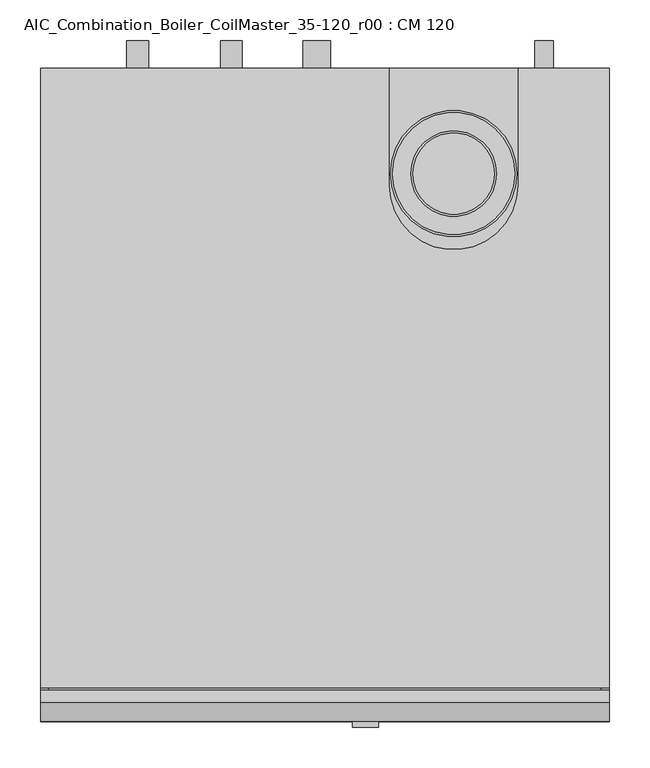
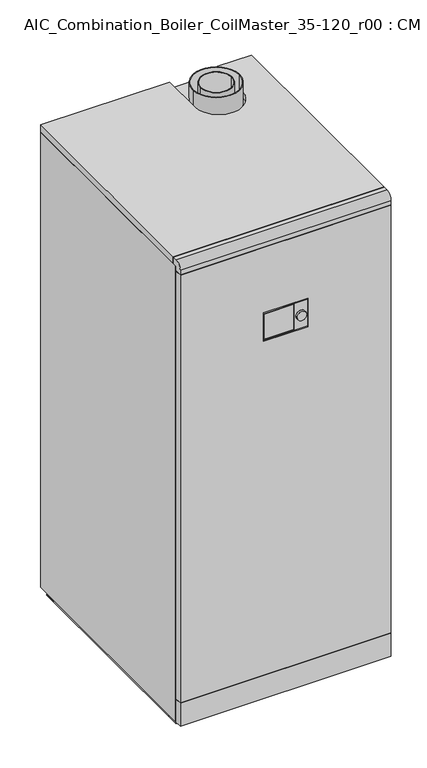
"""IFC4 building model written with IfcOpenShell, lengths in millimetres: unitary equipment geometry, AIC_Combination_Boiler_CoilMaster_35-120_r00 : CM 120."""

from ifc_helpers import new_model, si_unit, point, frame, frame_2d, origin, place, context, project, spatial, polyline, circle_curve, trimmed, segment, composite_curve, outline, extrude, source, transform, mapped, element, save
from ifc_brep_helpers import plane_surface, cylinder_surface, revolved_surface, advanced_brep


def aic_combination_boiler_coilmaster_35_120_r00_cm_120_bfeba861(model_context):
    return source(origin(), model_context, "Body", "SolidModel", [
        advanced_brep(
        [(72.0, -801.0, 1367.0), (-72.0, -801.0, 1367.0), (-72.0, -801.0, 1274.0), (72.0, -801.0, 1274.0), (-70.0, -801.0, 1365.0), (28.0, -801.0, 1365.0), (28.0, -801.0, 1276.0), (-70.0, -801.0, 1276.0), (66.0, -801.0, 1320.5), (34.0, -801.0, 1320.5), (72.0, -791.0, 1367.0), (72.0, -791.0, 1274.0), (-72.0, -791.0, 1274.0), (-72.0, -791.0, 1367.0), (28.0, -799.0, 1365.0), (-70.0, -799.0, 1365.0), (-70.0, -799.0, 1276.0), (28.0, -799.0, 1276.0), (34.0, -808.0, 1320.5), (66.0, -808.0, 1320.5)],
        [
            (0, 1),
            (1, 2),
            (2, 3),
            (3, 0),
            (4, 5),
            (5, 6),
            (6, 7),
            (7, 4),
            (8, 9, circle_curve(frame((50.0, -801.0, 1320.5), z_axis=(0.0, 1.0, 0.0), x_axis=(1.0, 0.0, 0.0)), 16.0)),
            (9, 8, circle_curve(frame((50.0, -801.0, 1320.5), z_axis=(0.0, 1.0, 0.0), x_axis=(1.0, 0.0, 0.0)), 16.0)),
            (10, 11),
            (11, 12),
            (12, 13),
            (13, 10),
            (0, 10),
            (13, 1),
            (12, 2),
            (11, 3),
            (14, 15),
            (15, 16),
            (16, 17),
            (17, 14),
            (14, 5),
            (4, 15),
            (7, 16),
            (6, 17),
            (18, 19, circle_curve(frame((50.0, -808.0, 1320.5), z_axis=(0.0, -1.0, 0.0), x_axis=(1.0, 0.0, 0.0)), 16.0)),
            (19, 18, circle_curve(frame((50.0, -808.0, 1320.5), z_axis=(0.0, -1.0, 0.0), x_axis=(1.0, 0.0, 0.0)), 16.0)),
            (18, 9),
            (8, 19),
        ],
        [
            plane_surface(frame((-72.0, -801.0, 1367.0), z_axis=(0.0, -1.0, 0.0), x_axis=(-1.0, 0.0, 0.0))),
            plane_surface(frame((-72.0, -791.0, 1367.0), z_axis=(0.0, 1.0, 0.0), x_axis=(1.0, 0.0, 0.0))),
            plane_surface(frame((72.0, -801.0, 1367.0), z_axis=(0.0, 0.0, 1.0), x_axis=(0.0, 1.0, 0.0))),
            plane_surface(frame((-72.0, -801.0, 1367.0), z_axis=(-1.0, 0.0, 0.0), x_axis=(0.0, 1.0, 0.0))),
            plane_surface(frame((-72.0, -801.0, 1274.0), z_axis=(0.0, 0.0, -1.0), x_axis=(0.0, 1.0, 0.0))),
            plane_surface(frame((72.0, -801.0, 1274.0), z_axis=(1.0, 0.0, 0.0), x_axis=(0.0, 1.0, 0.0))),
            plane_surface(frame((-70.0, -799.0, 1365.0), z_axis=(0.0, -1.0, 0.0), x_axis=(1.0, 0.0, 0.0))),
            plane_surface(frame((28.0, -801.0, 1365.0), z_axis=(0.0, 0.0, -1.0), x_axis=(0.0, 1.0, 0.0))),
            plane_surface(frame((-70.0, -801.0, 1365.0), z_axis=(1.0, 0.0, 0.0), x_axis=(0.0, 1.0, 0.0))),
            plane_surface(frame((-70.0, -801.0, 1276.0), z_axis=(0.0, 0.0, 1.0), x_axis=(0.0, 1.0, 0.0))),
            plane_surface(frame((28.0, -801.0, 1276.0), z_axis=(-1.0, 0.0, 0.0), x_axis=(0.0, 1.0, 0.0))),
            plane_surface(frame((66.0, -808.0, 1320.5), z_axis=(0.0, -1.0, 0.0), x_axis=(0.0, 0.0, 1.0))),
            cylinder_surface(frame((50.0, -801.0, 1320.5), z_axis=(0.0, -1.0, 0.0), x_axis=(1.0, 0.0, 0.0)), 16.0),
        ],
        [
            (0, [[1, 2, 3, 4], [5, 6, 7, 8], [9, 10]]),
            (1, [[11, 12, 13, 14]]),
            (2, [[-1, 15, -14, 16]]),
            (3, [[-2, -16, -13, 17]]),
            (4, [[-3, -17, -12, 18]]),
            (5, [[-4, -18, -11, -15]]),
            (6, [[19, 20, 21, 22]]),
            (7, [[-19, 23, -5, 24]]),
            (8, [[-20, -24, -8, 25]]),
            (9, [[-21, -25, -7, 26]]),
            (10, [[-22, -26, -6, -23]]),
            (11, [[27, 28]]),
            (12, [[-27, 29, -9, 30]]),
            (12, [[-28, -30, -10, -29]]),
        ],
    ),
        extrude(outline(polyline([(0.0, -35.0), (0.0, 35.0), (102.0, 74.5), (102.0, -74.5), (0.0, -35.0)])), frame((0.0, -760.0, 0.0), z_axis=(0.0, 1.0, 0.0), x_axis=(0.0, 0.0, 1.0)), (0.0, 0.0, 1.0), 742.0),
        extrude(outline(composite_curve([segment(trimmed(circle_curve(frame_2d((139.0, 269.0)), 11.5), [point((139.0, 257.5))], [point((139.0, 280.5))], False, "CARTESIAN"), True, "CONTINUOUS"), segment(trimmed(circle_curve(frame_2d((139.0, 269.0)), 11.5), [point((139.0, 280.5))], [point((139.0, 257.5))], False, "CARTESIAN"), True, "CONTINUOUS")], self_intersect=False)), frame((0.0, 0.0, 0.0), z_axis=(0.0, 1.0, 0.0), x_axis=(0.0, 0.0, 1.0)), (0.0, 0.0, 1.0), 34.0),
        extrude(outline(composite_curve([segment(trimmed(circle_curve(frame_2d((318.0, -10.0)), 16.7), [point((318.0, -26.7))], [point((318.0, 6.7))], False, "CARTESIAN"), True, "CONTINUOUS"), segment(trimmed(circle_curve(frame_2d((318.0, -10.0)), 16.7), [point((318.0, 6.7))], [point((318.0, -26.7))], False, "CARTESIAN"), True, "CONTINUOUS")], self_intersect=False)), frame((0.0, 0.0, 0.0), z_axis=(0.0, 1.0, 0.0), x_axis=(0.0, 0.0, 1.0)), (0.0, 0.0, 1.0), 34.0),
        extrude(outline(composite_curve([segment(trimmed(circle_curve(frame_2d((412.0, -230.0)), 13.35), [point((412.0, -243.35))], [point((412.0, -216.65))], False, "CARTESIAN"), True, "CONTINUOUS"), segment(trimmed(circle_curve(frame_2d((412.0, -230.0)), 13.35), [point((412.0, -216.65))], [point((412.0, -243.35))], False, "CARTESIAN"), True, "CONTINUOUS")], self_intersect=False)), frame((0.0, 0.0, 0.0), z_axis=(0.0, 1.0, 0.0), x_axis=(0.0, 0.0, 1.0)), (0.0, 0.0, 1.0), 34.0),
        extrude(outline(composite_curve([segment(trimmed(circle_curve(frame_2d((485.0, -230.0)), 13.35), [point((485.0, -243.35))], [point((485.0, -216.65))], False, "CARTESIAN"), True, "CONTINUOUS"), segment(trimmed(circle_curve(frame_2d((485.0, -230.0)), 13.35), [point((485.0, -216.65))], [point((485.0, -243.35))], False, "CARTESIAN"), True, "CONTINUOUS")], self_intersect=False)), frame((0.0, 0.0, 0.0), z_axis=(0.0, 1.0, 0.0), x_axis=(0.0, 0.0, 1.0)), (0.0, 0.0, 1.0), 34.0),
        extrude(outline(composite_curve([segment(trimmed(circle_curve(frame_2d((1261.0, -230.0)), 13.35), [point((1261.0, -243.35))], [point((1261.0, -216.65))], False, "CARTESIAN"), True, "CONTINUOUS"), segment(trimmed(circle_curve(frame_2d((1261.0, -230.0)), 13.35), [point((1261.0, -216.65))], [point((1261.0, -243.35))], False, "CARTESIAN"), True, "CONTINUOUS")], self_intersect=False)), frame((0.0, 0.0, 0.0), z_axis=(0.0, 1.0, 0.0), x_axis=(0.0, 0.0, 1.0)), (0.0, 0.0, 1.0), 34.0),
        extrude(outline(composite_curve([segment(trimmed(circle_curve(frame_2d((1356.0, -10.0)), 16.7), [point((1356.0, -26.7))], [point((1356.0, 6.7))], False, "CARTESIAN"), True, "CONTINUOUS"), segment(trimmed(circle_curve(frame_2d((1356.0, -10.0)), 16.7), [point((1356.0, 6.7))], [point((1356.0, -26.7))], False, "CARTESIAN"), True, "CONTINUOUS")], self_intersect=False)), frame((0.0, 0.0, 0.0), z_axis=(0.0, 1.0, 0.0), x_axis=(0.0, 0.0, 1.0)), (0.0, 0.0, 1.0), 34.0),
        extrude(outline(composite_curve([segment(trimmed(circle_curve(frame_2d((1499.0, -115.0)), 13.35), [point((1499.0, -128.35))], [point((1499.0, -101.65))], False, "CARTESIAN"), True, "CONTINUOUS"), segment(trimmed(circle_curve(frame_2d((1499.0, -115.0)), 13.35), [point((1499.0, -101.65))], [point((1499.0, -128.35))], False, "CARTESIAN"), True, "CONTINUOUS")], self_intersect=False)), frame((0.0, 0.0, 0.0), z_axis=(0.0, 1.0, 0.0), x_axis=(0.0, 0.0, 1.0)), (0.0, 0.0, 1.0), 34.0),
        extrude(outline(composite_curve([segment(trimmed(circle_curve(frame_2d((158.0, -129.0)), 52.5), [point((105.5, -129.0))], [point((210.5, -129.0))], False, "CARTESIAN"), True, "CONTINUOUS"), segment(trimmed(circle_curve(frame_2d((158.0, -129.0)), 52.5), [point((210.5, -129.0))], [point((105.5, -129.0))], False, "CARTESIAN"), True, "CONTINUOUS")], self_intersect=False), holes=[composite_curve([segment(trimmed(circle_curve(frame_2d((158.0, -129.0)), 50.0), [point((108.0, -129.0))], [point((208.0, -129.0))], True, "CARTESIAN"), True, "CONTINUOUS"), segment(trimmed(circle_curve(frame_2d((158.0, -129.0)), 50.0), [point((208.0, -129.0))], [point((108.0, -129.0))], True, "CARTESIAN"), True, "CONTINUOUS")], self_intersect=False)]), frame((0.0, 0.0, 1615.5), z_axis=(0.0, 0.0, 1.0), x_axis=(1.0, 0.0, 0.0)), (0.0, 0.0, 1.0), 73.5),
        extrude(outline(composite_curve([segment(trimmed(circle_curve(frame_2d((158.0, -129.0)), 77.5), [point((80.5, -129.0))], [point((235.5, -129.0))], False, "CARTESIAN"), True, "CONTINUOUS"), segment(trimmed(circle_curve(frame_2d((158.0, -129.0)), 77.5), [point((235.5, -129.0))], [point((80.5, -129.0))], False, "CARTESIAN"), True, "CONTINUOUS")], self_intersect=False), holes=[composite_curve([segment(trimmed(circle_curve(frame_2d((158.0, -129.0)), 75.0), [point((83.0, -129.0))], [point((233.0, -129.0))], True, "CARTESIAN"), True, "CONTINUOUS"), segment(trimmed(circle_curve(frame_2d((158.0, -129.0)), 75.0), [point((233.0, -129.0))], [point((83.0, -129.0))], True, "CARTESIAN"), True, "CONTINUOUS")], self_intersect=False)]), frame((0.0, 0.0, 1615.5), z_axis=(0.0, 0.0, 1.0), x_axis=(1.0, 0.0, 0.0)), (0.0, 0.0, 1.0), 73.5),
        advanced_brep(
        [(349.0, -801.0, 20.0), (-349.0, -801.0, 20.0), (-349.0, -777.5, 20.0), (-339.0, -777.5, 20.0), (-339.0, -775.0, 20.0), (339.0, -775.0, 20.0), (339.0, -777.5, 20.0), (349.0, -777.5, 20.0), (-349.0, 0.0, 20.0), (-339.0, 0.0, 20.0), (-339.0, -58.0, 20.0), (-339.0, -720.0, 20.0), (-349.0, -775.0, 20.0), (339.0, 0.0, 20.0), (349.0, 0.0, 20.0), (349.0, -775.0, 20.0), (339.0, -720.0, 20.0), (339.0, -58.0, 20.0), (-339.0, -775.0, 100.0), (339.0, -775.0, 100.0), (-339.0, -18.0, 0.0), (-260.0, -18.0, 0.0), (-260.0, -760.0, 0.0), (-339.0, -760.0, 0.0), (260.0, -18.0, 0.0), (339.0, -18.0, 0.0), (339.0, -760.0, 0.0), (260.0, -760.0, 0.0), (-339.0, -58.0, 102.0), (-260.0, -58.0, 102.0), (-260.0, -58.0, 3.0), (-339.0, -58.0, 3.0), (-339.0, -18.0, 3.0), (-339.0, -760.0, 3.0), (-339.0, -720.0, 3.0), (-260.0, -720.0, 102.0), (-339.0, -720.0, 102.0), (-260.0, -720.0, 3.0), (-260.0, -760.0, 3.0), (-260.0, -18.0, 3.0), (260.0, -58.0, 102.0), (339.0, -58.0, 102.0), (339.0, -58.0, 3.0), (260.0, -58.0, 3.0), (260.0, -720.0, 102.0), (260.0, -18.0, 3.0), (260.0, -760.0, 3.0), (260.0, -720.0, 3.0), (339.0, -720.0, 102.0), (339.0, -720.0, 3.0), (339.0, -760.0, 3.0), (339.0, -18.0, 3.0), (-349.0, -777.5, 1639.0), (349.0, -777.5, 1639.0), (349.0, -763.0, 1639.0), (-349.0, -763.0, 1639.0), (-349.0, 0.0, 1639.0), (-349.0, -760.0, 1639.0), (349.0, -760.0, 1639.0), (349.0, 0.0, 1639.0), (237.5, 0.0, 1639.0), (237.5, -143.0, 1639.0), (78.5, -143.0, 1639.0), (78.5, 0.0, 1639.0), (-339.0, 0.0, 102.0), (339.0, 0.0, 102.0), (339.0, -775.0, 102.0), (339.0, -777.5, 102.0), (349.0, -777.5, 102.0), (349.0, -801.0, 102.0), (-349.0, -801.0, 102.0), (-349.0, -777.5, 102.0), (-339.0, -777.5, 102.0), (-339.0, -775.0, 102.0), (349.0, 0.0, 1615.5), (339.0, 0.0, 1615.5), (339.0, 0.0, 1613.5), (349.0, 0.0, 1613.5), (-349.0, 0.0, 1613.5), (-339.0, 0.0, 1613.5), (-339.0, 0.0, 1615.5), (-349.0, 0.0, 1615.5), (78.5, 0.0, 1615.5), (237.5, 0.0, 1615.5), (-26.7, 0.0, 1442.0), (6.7, 0.0, 1442.0), (-349.0, -801.0, 1599.0), (-349.0, -777.5, 1599.0), (-349.0, -760.0, 1615.5), (-349.0, -801.0, 1615.5), (-349.0, -763.0, 1615.5), (-349.0, -777.5, 1615.5), (-349.0, -777.5, 1601.0), (-349.0, -801.0, 1601.0), (-349.0, -801.0, 100.0), (-349.0, -777.5, 100.0), (-349.0, -775.0, 1613.5), (349.0, -801.0, 100.0), (349.0, -801.0, 1599.0), (-73.5, -801.0, 1370.0), (73.5, -801.0, 1370.0), (73.5, -801.0, 1271.0), (-73.5, -801.0, 1271.0), (349.0, -801.0, 1615.5), (349.0, -801.0, 1601.0), (349.0, -777.5, 1599.0), (349.0, -760.0, 1615.5), (349.0, -777.5, 100.0), (349.0, -777.5, 1601.0), (349.0, -777.5, 1615.5), (349.0, -763.0, 1615.5), (349.0, -775.0, 1613.5), (73.5, -791.0, 1370.0), (-73.5, -791.0, 1370.0), (-73.5, -791.0, 1271.0), (73.5, -791.0, 1271.0), (339.0, -777.5, 100.0), (-339.0, -777.5, 100.0), (-339.0, -775.0, 1613.5), (339.0, -775.0, 1613.5), (-339.0, -777.5, 1599.0), (-339.0, -777.5, 1615.5), (-339.0, -777.5, 1601.0), (339.0, -777.5, 1599.0), (339.0, -777.5, 1615.5), (339.0, -777.5, 1601.0), (339.0, -760.0, 1615.5), (-339.0, -760.0, 1615.5), (-339.0, -763.0, 1615.5), (339.0, -763.0, 1615.5), (-26.7, -58.0, 1442.0), (6.7, -58.0, 1442.0), (237.5, -143.0, 1615.5), (78.5, -143.0, 1615.5)],
        [
            (0, 1),
            (1, 2),
            (2, 3),
            (3, 4),
            (4, 5),
            (5, 6),
            (6, 7),
            (7, 0),
            (8, 9),
            (9, 10),
            (10, 11),
            (11, 4),
            (4, 12),
            (12, 8),
            (13, 14),
            (14, 15),
            (15, 5),
            (5, 16),
            (16, 17),
            (17, 13),
            (4, 18),
            (18, 19),
            (19, 5),
            (20, 21),
            (21, 22),
            (22, 23),
            (23, 20),
            (24, 25),
            (25, 26),
            (26, 27),
            (27, 24),
            (28, 29),
            (29, 30),
            (30, 31),
            (31, 10),
            (10, 28),
            (31, 32),
            (32, 20),
            (23, 33),
            (33, 34),
            (34, 11),
            (35, 36),
            (36, 11),
            (34, 37),
            (37, 35),
            (29, 35),
            (37, 38),
            (38, 22),
            (21, 39),
            (39, 30),
            (40, 41),
            (41, 17),
            (17, 42),
            (42, 43),
            (43, 40),
            (44, 40),
            (43, 45),
            (45, 24),
            (27, 46),
            (46, 47),
            (47, 44),
            (48, 44),
            (47, 49),
            (49, 16),
            (16, 48),
            (49, 50),
            (50, 26),
            (25, 51),
            (51, 42),
            (52, 53),
            (53, 54),
            (54, 55),
            (55, 52),
            (56, 57),
            (57, 58),
            (58, 59),
            (59, 60),
            (60, 61),
            (61, 62, circle_curve(frame((158.0, -143.0, 1639.0), z_axis=(0.0, 0.0, -1.0), x_axis=(1.0, 0.0, 0.0)), 79.5)),
            (62, 63),
            (63, 56),
            (28, 64),
            (64, 65),
            (65, 41),
            (48, 66),
            (66, 67),
            (67, 68),
            (68, 69),
            (69, 70),
            (70, 71),
            (71, 72),
            (72, 73),
            (73, 36),
            (59, 74),
            (74, 75),
            (75, 76),
            (76, 77),
            (77, 14),
            (13, 65),
            (64, 9),
            (8, 78),
            (78, 79),
            (79, 80),
            (80, 81),
            (81, 56),
            (63, 82),
            (82, 83),
            (83, 60),
            (84, 85, circle_curve(frame((-10.0, 0.0, 1442.0), z_axis=(0.0, -1.0, 0.0), x_axis=(1.0, 0.0, 0.0)), 16.7)),
            (85, 84, circle_curve(frame((-10.0, 0.0, 1442.0), z_axis=(0.0, -1.0, 0.0), x_axis=(1.0, 0.0, 0.0)), 16.7)),
            (70, 86),
            (86, 87),
            (87, 71),
            (81, 88),
            (88, 57),
            (89, 52, circle_curve(frame((-349.0, -777.5, 1615.5), z_axis=(-1.0, 0.0, 0.0), x_axis=(0.0, 1.0, 0.0)), 23.5)),
            (55, 90),
            (90, 91),
            (91, 92),
            (92, 93),
            (93, 89),
            (1, 94),
            (94, 95),
            (95, 2),
            (96, 78),
            (12, 96),
            (0, 97),
            (97, 94),
            (69, 98),
            (98, 86),
            (99, 100),
            (100, 101),
            (101, 102),
            (102, 99),
            (103, 89),
            (93, 104),
            (104, 103),
            (68, 105),
            (105, 98),
            (58, 106),
            (106, 74),
            (7, 107),
            (107, 97),
            (53, 103, circle_curve(frame((349.0, -777.5, 1615.5), z_axis=(1.0, 0.0, 0.0), x_axis=(0.0, 1.0, 0.0)), 23.5)),
            (104, 108),
            (108, 109),
            (109, 110),
            (110, 54),
            (77, 111),
            (111, 15),
            (112, 113),
            (113, 114),
            (114, 115),
            (115, 112),
            (112, 100),
            (99, 113),
            (102, 114),
            (101, 115),
            (73, 18),
            (19, 66),
            (33, 38),
            (46, 50),
            (39, 32),
            (51, 45),
            (107, 116),
            (116, 19),
            (18, 117),
            (117, 95),
            (73, 118),
            (118, 96),
            (4, 18),
            (19, 5),
            (111, 119),
            (119, 66),
            (87, 120),
            (120, 72),
            (91, 121),
            (121, 122),
            (122, 92),
            (117, 3),
            (67, 123),
            (123, 105),
            (124, 109),
            (108, 125),
            (125, 124),
            (6, 116),
            (106, 126),
            (126, 75),
            (80, 127),
            (127, 88),
            (90, 128),
            (128, 121),
            (124, 129),
            (129, 110),
            (118, 79),
            (76, 119),
            (120, 122),
            (128, 127),
            (126, 129),
            (125, 123),
            (126, 127),
            (128, 129),
            (122, 125),
            (123, 120),
            (130, 131, circle_curve(frame((-10.0, -58.0, 1442.0), z_axis=(0.0, 1.0, 0.0), x_axis=(1.0, 0.0, 0.0)), 16.7)),
            (131, 130, circle_curve(frame((-10.0, -58.0, 1442.0), z_axis=(0.0, 1.0, 0.0), x_axis=(1.0, 0.0, 0.0)), 16.7)),
            (131, 85),
            (84, 130),
            (132, 83),
            (82, 133),
            (133, 132, circle_curve(frame((158.0, -143.0, 1615.5), z_axis=(0.0, 0.0, 1.0), x_axis=(1.0, 0.0, 0.0)), 79.5)),
            (132, 61),
            (62, 133),
        ],
        [
            plane_surface(frame((-349.0, -775.0, 20.0), z_axis=(0.0, 0.0, -1.0), x_axis=(1.0, 0.0, 0.0))),
            plane_surface(frame((349.0, -775.0, 102.0), z_axis=(0.0, 1.0, 0.0), x_axis=(0.0, 0.0, -1.0))),
            plane_surface(frame((-339.0, -58.0, 0.0), z_axis=(0.0, 0.0, -1.0), x_axis=(1.0, 0.0, 0.0))),
            plane_surface(frame((-260.0, -58.0, 102.0), z_axis=(0.0, 1.0, 0.0), x_axis=(0.0, 0.0, -1.0))),
            plane_surface(frame((-339.0, -58.0, 102.0), z_axis=(-1.0, 0.0, 0.0), x_axis=(0.0, 0.0, -1.0))),
            plane_surface(frame((-339.0, -720.0, 102.0), z_axis=(0.0, -1.0, 0.0), x_axis=(0.0, 0.0, -1.0))),
            plane_surface(frame((-260.0, -720.0, 102.0), z_axis=(1.0, 0.0, 0.0), x_axis=(0.0, 0.0, -1.0))),
            plane_surface(frame((339.0, -58.0, 102.0), z_axis=(0.0, 1.0, 0.0), x_axis=(0.0, 0.0, -1.0))),
            plane_surface(frame((260.0, -58.0, 102.0), z_axis=(-1.0, 0.0, 0.0), x_axis=(0.0, 0.0, -1.0))),
            plane_surface(frame((260.0, -720.0, 102.0), z_axis=(0.0, -1.0, 0.0), x_axis=(0.0, 0.0, -1.0))),
            plane_surface(frame((339.0, -720.0, 102.0), z_axis=(1.0, 0.0, 0.0), x_axis=(0.0, 0.0, -1.0))),
            plane_surface(frame((-349.0, 0.0, 1639.0), z_axis=(0.0, 0.0, 1.0), x_axis=(-1.0, 0.0, 0.0))),
            plane_surface(frame((-349.0, 0.0, 102.0), z_axis=(0.0, 0.0, -1.0), x_axis=(1.0, 0.0, 0.0))),
            plane_surface(frame((349.0, 0.0, 1639.0), z_axis=(0.0, 1.0, 0.0), x_axis=(0.0, 0.0, -1.0))),
            plane_surface(frame((-349.0, 0.0, 1639.0), z_axis=(-1.0, 0.0, 0.0), x_axis=(0.0, 0.0, -1.0))),
            plane_surface(frame((-349.0, -801.0, 1639.0), z_axis=(0.0, -1.0, 0.0), x_axis=(0.0, 0.0, -1.0))),
            plane_surface(frame((349.0, -801.0, 1639.0), z_axis=(1.0, 0.0, 0.0), x_axis=(0.0, 0.0, -1.0))),
            plane_surface(frame((-73.5, -791.0, 1370.0), z_axis=(0.0, -1.0, 0.0), x_axis=(1.0, 0.0, 0.0))),
            plane_surface(frame((73.5, -801.0, 1370.0), z_axis=(0.0, 0.0, -1.0), x_axis=(0.0, 1.0, 0.0))),
            plane_surface(frame((-73.5, -801.0, 1370.0), z_axis=(1.0, 0.0, 0.0), x_axis=(0.0, 1.0, 0.0))),
            plane_surface(frame((-73.5, -801.0, 1271.0), z_axis=(0.0, 0.0, 1.0), x_axis=(0.0, 1.0, 0.0))),
            plane_surface(frame((73.5, -801.0, 1271.0), z_axis=(-1.0, 0.0, 0.0), x_axis=(0.0, 1.0, 0.0))),
            plane_surface(frame((-339.0, -775.0, 102.0), z_axis=(1.0, 0.0, 0.0), x_axis=(0.0, 0.0, -1.0))),
            plane_surface(frame((339.0, 0.0, 102.0), z_axis=(-1.0, 0.0, 0.0), x_axis=(0.0, 0.0, -1.0))),
            plane_surface(frame((-339.0, -18.0, 3.0), z_axis=(0.0, 0.0, 1.0), x_axis=(-1.0, 0.0, 0.0))),
            plane_surface(frame((-260.0, -18.0, 3.0), z_axis=(0.0, 1.0, 0.0), x_axis=(0.0, 0.0, -1.0))),
            plane_surface(frame((339.0, -18.0, 3.0), z_axis=(0.0, 1.0, 0.0), x_axis=(0.0, 0.0, -1.0))),
            plane_surface(frame((260.0, -760.0, 3.0), z_axis=(0.0, -1.0, 0.0), x_axis=(0.0, 0.0, -1.0))),
            plane_surface(frame((-339.0, -760.0, 3.0), z_axis=(0.0, -1.0, 0.0), x_axis=(0.0, 0.0, -1.0))),
            cylinder_surface(frame((-349.0, -777.5, 1615.5), z_axis=(-1.0, 0.0, 0.0), x_axis=(0.0, 1.0, 0.0)), 23.5),
            plane_surface(frame((349.0, -801.0, 100.0), z_axis=(0.0, 0.0, 1.0), x_axis=(0.0, -1.0, 0.0))),
            plane_surface(frame((349.0, -775.0, 102.0), z_axis=(0.0, -1.0, 0.0), x_axis=(0.0, 0.0, -1.0))),
            plane_surface(frame((-349.0, -777.5, 1615.5), z_axis=(0.0, 1.0, 0.0), x_axis=(0.0, 0.0, -1.0))),
            plane_surface(frame((339.0, -777.5, 1615.5), z_axis=(0.0, 1.0, 0.0), x_axis=(0.0, 0.0, -1.0))),
            plane_surface(frame((-349.0, 0.0, 1615.5), z_axis=(0.0, 0.0, -1.0), x_axis=(-1.0, 0.0, 0.0))),
            plane_surface(frame((-349.0, 0.0, 1613.5), z_axis=(0.0, 0.0, 1.0), x_axis=(1.0, 0.0, 0.0))),
            plane_surface(frame((-339.0, -775.0, 1615.5), z_axis=(-1.0, 0.0, 0.0), x_axis=(0.0, 0.0, -1.0))),
            plane_surface(frame((339.0, 0.0, 1615.5), z_axis=(1.0, 0.0, 0.0), x_axis=(0.0, 0.0, -1.0))),
            plane_surface(frame((-349.0, -760.0, 1615.5), z_axis=(0.0, 0.0, 1.0), x_axis=(1.0, 0.0, 0.0))),
            plane_surface(frame((349.0, -760.0, 1639.0), z_axis=(0.0, -1.0, 0.0), x_axis=(0.0, 0.0, -1.0))),
            plane_surface(frame((-349.0, -763.0, 1639.0), z_axis=(0.0, 1.0, 0.0), x_axis=(0.0, 0.0, -1.0))),
            plane_surface(frame((-349.0, -777.5, 1601.0), z_axis=(0.0, 0.0, -1.0), x_axis=(-1.0, 0.0, 0.0))),
            plane_surface(frame((-349.0, -777.5, 1599.0), z_axis=(0.0, 0.0, 1.0), x_axis=(1.0, 0.0, 0.0))),
            plane_surface(frame((349.0, -777.5, 1601.0), z_axis=(0.0, -1.0, 0.0), x_axis=(0.0, 0.0, -1.0))),
            plane_surface(frame((6.7, -58.0, 1442.0), z_axis=(0.0, 1.0, 0.0), x_axis=(0.0, 0.0, 1.0))),
            revolved_surface(polyline([(6.699999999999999, -58.0, 1442.0), (6.699999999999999, 0.0, 1442.0)]), (-10.0, 0.0, 1442.0), (0.0, -1.0, 0.0)),
            plane_surface(frame((237.5, 0.0, 1615.5), z_axis=(0.0, 0.0, 1.0), x_axis=(0.0, -1.0, 0.0))),
            plane_surface(frame((237.5, -143.0, 1639.0), z_axis=(-1.0, 0.0, 0.0), x_axis=(0.0, 0.0, -1.0))),
            plane_surface(frame((78.5, 0.0, 1639.0), z_axis=(1.0, 0.0, 0.0), x_axis=(0.0, 0.0, -1.0))),
            revolved_surface(polyline([(237.5, -143.0, 1639.0), (237.5, -143.0, 1615.5)]), (158.0, -143.0, 1615.5), (0.0, 0.0, 1.0)),
        ],
        [
            (0, [[1, 2, 3, 4, 5, 6, 7, 8]]),
            (0, [[9, 10, 11, 12, 13, 14]]),
            (0, [[15, 16, 17, 18, 19, 20]]),
            (1, [[-5, 21, 22, 23]]),
            (2, [[24, 25, 26, 27]]),
            (2, [[28, 29, 30, 31]]),
            (3, [[32, 33, 34, 35, 36]]),
            (4, [[-11, -35, 37, 38, -27, 39, 40, 41]]),
            (5, [[42, 43, -41, 44, 45]]),
            (6, [[46, -45, 47, 48, -25, 49, 50, -33]]),
            (7, [[51, 52, 53, 54, 55]]),
            (8, [[56, -55, 57, 58, -31, 59, 60, 61]]),
            (9, [[62, -61, 63, 64, 65]]),
            (10, [[-19, -64, 66, 67, -29, 68, 69, -53]]),
            (11, [[70, 71, 72, 73]]),
            (11, [[74, 75, 76, 77, 78, 79, 80, 81]]),
            (12, [[-32, 82, 83, 84, -51, -56, -62, 85, 86, 87, 88, 89, 90, 91, 92, 93, -42, -46]]),
            (13, [[94, 95, 96, 97, 98, -15, 99, -83, 100, -9, 101, 102, 103, 104, 105, -81, 106, 107, 108, -77], [109, 110]]),
            (14, [[-90, 111, 112, 113]]),
            (14, [[-105, 114, 115, -74]]),
            (14, [[116, -73, 117, 118, 119, 120, 121]]),
            (14, [[122, 123, 124, -2]]),
            (14, [[125, -101, -14, 126]]),
            (15, [[-1, 127, 128, -122]]),
            (15, [[-89, 129, 130, -111], [131, 132, 133, 134]]),
            (15, [[135, -121, 136, 137]]),
            (16, [[-88, 138, 139, -129]]),
            (16, [[-94, -76, 140, 141]]),
            (16, [[-127, -8, 142, 143]]),
            (16, [[144, -137, 145, 146, 147, 148, -71]]),
            (16, [[149, 150, -16, -98]]),
            (17, [[151, 152, 153, 154]]),
            (18, [[-151, 155, -131, 156]]),
            (19, [[-152, -156, -134, 157]]),
            (20, [[-153, -157, -133, 158]]),
            (21, [[-154, -158, -132, -155]]),
            (22, [[-12, -43, -93, 159, -21]]),
            (22, [[-100, -82, -36, -10]]),
            (23, [[-18, -23, 160, -85, -65]]),
            (23, [[-99, -20, -52, -84]]),
            (24, [[-40, 161, -47, -44]]),
            (24, [[-60, 162, -66, -63]]),
            (24, [[163, -37, -34, -50]]),
            (24, [[164, -57, -54, -69]]),
            (25, [[-163, -49, -24, -38]]),
            (26, [[-164, -68, -28, -58]]),
            (27, [[-162, -59, -30, -67]]),
            (28, [[-161, -39, -26, -48]]),
            (29, [[-70, -116, -135, -144]]),
            (30, [[-128, -143, 165, 166, -22, 167, 168, -123]]),
            (31, [[-159, 169, 170, -126, -13, 171]]),
            (31, [[-160, 172, -17, -150, 173, 174]]),
            (32, [[-91, -113, 175, 176]]),
            (32, [[177, 178, 179, -119]]),
            (32, [[180, -3, -124, -168]]),
            (33, [[-87, 181, 182, -138]]),
            (33, [[183, -146, 184, 185]]),
            (33, [[186, -165, -142, -7]]),
            (34, [[-95, -141, 187, 188]]),
            (34, [[-104, 189, 190, -114]]),
            (34, [[-177, -118, 191, 192]]),
            (34, [[-183, 193, 194, -147]]),
            (35, [[195, -102, -125, -170]]),
            (35, [[196, -173, -149, -97]]),
            (36, [[-171, -4, -180, -167]]),
            (36, [[-195, -169, -92, -176, 197, -178, -192, 198, -189, -103]]),
            (37, [[-172, -166, -186, -6]]),
            (37, [[-196, -96, -188, 199, -193, -185, 200, -181, -86, -174]]),
            (38, [[201, -198, 202, -199]]),
            (39, [[-201, -187, -140, -75, -115, -190]]),
            (40, [[-202, -191, -117, -72, -148, -194]]),
            (41, [[203, -184, -145, -136, -120, -179]]),
            (42, [[204, -175, -112, -130, -139, -182]]),
            (43, [[-203, -197, -204, -200]]),
            (44, [[205, 206]]),
            (45, [[-206, 207, -109, 208]]),
            (45, [[-205, -208, -110, -207]]),
            (46, [[209, -107, 210, 211]]),
            (47, [[-209, 212, -78, -108]]),
            (48, [[-210, -106, -80, 213]]),
            (49, [[-211, -213, -79, -212]]),
        ],
    ),
    ])


if __name__ == "__main__":
    model = new_model("IFC4")
    model_context = context("Model", 3, world=origin())
    ifc_project = project(units=[si_unit("LENGTHUNIT", "METRE", prefix="MILLI")], contexts=[model_context])
    site = spatial("IfcSite", under=ifc_project)
    building = spatial("IfcBuilding", under=site)
    placement = place(None, origin())
    aic_combination_boiler_coilmaster_35_120_r00_cm_120_shape = aic_combination_boiler_coilmaster_35_120_r00_cm_120_bfeba861(model_context)
    element("IfcUnitaryEquipment", 1, ObjectType="AIC_Combination_Boiler_CoilMaster_35-120_r00 : CM 120", at=placement, inside=building, context=model_context, shape_type="MappedRepresentation", body=[
        mapped(aic_combination_boiler_coilmaster_35_120_r00_cm_120_shape, transform((0.0, 0.0, 0.0), x_axis=(1.0, 0.0, 0.0), y_axis=(0.0, 1.0, 0.0), z_axis=(0.0, 0.0, 1.0))),
    ])
    save(model, "model.ifc")
